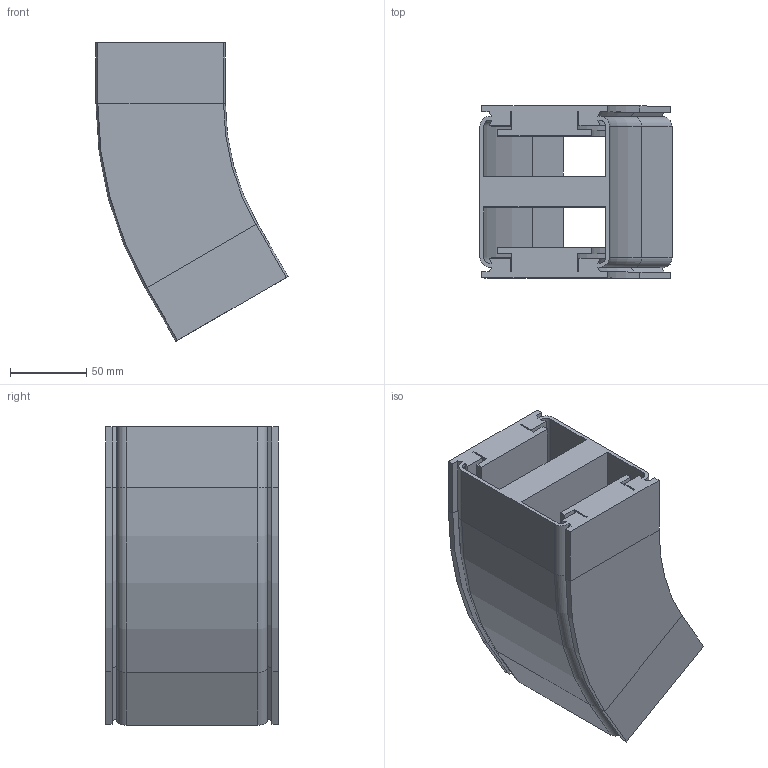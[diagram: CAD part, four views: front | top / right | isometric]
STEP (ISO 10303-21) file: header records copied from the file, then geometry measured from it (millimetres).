
FILE_DESCRIPTION (( 'STEP AP214' ), '1' );
FILE_NAME ('VC.85 Horizontale bochtsectie R200 30°.STEP', '2016-10-19T07:03:58', ( '' ), ( '' ), 'SwSTEP 2.0', 'SolidWorks 2016', '' );
FILE_SCHEMA (( 'AUTOMOTIVE_DESIGN' ));
Length unit declared in the file: millimetre
Products named in the file (1): VC.85 Horizontale bochtsectie R200 30°
Bounding box: 126.1 x 113 x 195.89 mm (x, y, z)
Volume: 880583.1 mm3; surface area: 210639.9 mm2
Topology: 1 solids, 1 shells, 206 faces, 476 edges, 272 vertices
Faces by surface type: plane 152, cylinder 38, cone 8, torus 8
Entity records: 5674 total; most frequent: DIRECTION 990, CARTESIAN_POINT 955, ORIENTED_EDGE 952, EDGE_CURVE 476, VECTOR 376, LINE 376, AXIS2_PLACEMENT_3D 307, VERTEX_POINT 272
